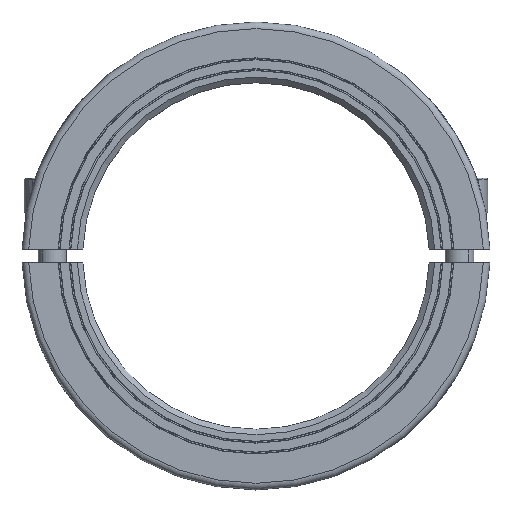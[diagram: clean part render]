
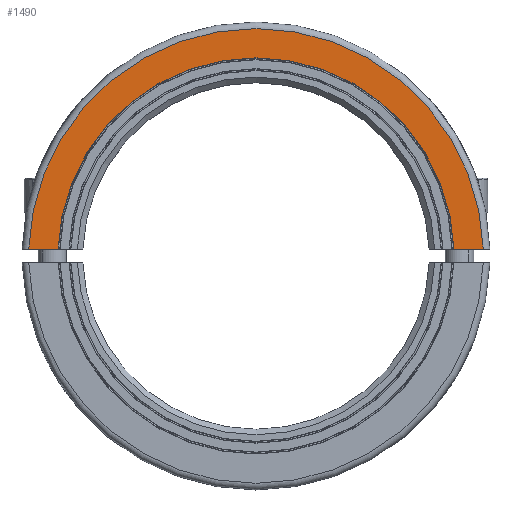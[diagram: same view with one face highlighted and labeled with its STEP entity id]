
A CAD part, top view. The second image highlights one B-rep face of the part: STEP entity #1490.
In plain terms, the highlighted planar face has unit normal (0, 0, 1).
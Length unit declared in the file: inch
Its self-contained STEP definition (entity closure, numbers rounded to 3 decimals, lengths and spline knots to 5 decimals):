
#128=CARTESIAN_POINT('',(2.06519,0.0625,0.74803));
#272=DIRECTION('',(-1.,0.,0.));
#273=VECTOR('',#272,0.26628);
#274=CARTESIAN_POINT('',(-1.79891,0.06252,
0.74803));
#275=LINE('',#274,#273);
#365=CARTESIAN_POINT('',(0.,0.,0.74803));
#366=DIRECTION('',(0.,0.,1.));
#367=DIRECTION('',(1.,0.03,0.));
#368=AXIS2_PLACEMENT_3D('',#365,#366,#367);
#370=DIRECTION('',(1.,0.,0.));
#371=VECTOR('',#370,0.26628);
#372=CARTESIAN_POINT('',(1.79891,0.06252,0.74803));
#373=LINE('',#372,#371);
#379=CARTESIAN_POINT('',(0.,0.,0.74803));
#380=DIRECTION('',(0.,0.,-1.));
#381=DIRECTION('',(-0.999,0.035,0.));
#382=AXIS2_PLACEMENT_3D('',#379,#380,#381);
#384=CARTESIAN_POINT('',(1.79891,0.06252,0.74803));
#868=VERTEX_POINT('',#128);
#871=VERTEX_POINT('',#384);
#918=CARTESIAN_POINT('',(-1.79891,0.06252,
0.74803));
#919=CARTESIAN_POINT('',(-2.06519,0.0625,
0.74803));
#920=VERTEX_POINT('',#918);
#921=VERTEX_POINT('',#919);
#1478=CARTESIAN_POINT('',(0.,0.,0.74803));
#1479=DIRECTION('',(0.,0.,1.));
#1480=DIRECTION('',(0.707,-0.707,0.));
#1481=AXIS2_PLACEMENT_3D('',#1478,#1479,#1480);
#1482=PLANE('',#1481);
#1484=ORIENTED_EDGE('',*,*,#1483,.F.);
#1485=ORIENTED_EDGE('',*,*,#1444,.T.);
#1486=ORIENTED_EDGE('',*,*,#1122,.F.);
#1487=ORIENTED_EDGE('',*,*,#1145,.F.);
#1488=EDGE_LOOP('',(#1484,#1485,#1486,#1487));
#1489=FACE_OUTER_BOUND('',#1488,.F.);
#369=CIRCLE('',#368,2.06614);
#383=CIRCLE('',#382,1.8);
#1122=EDGE_CURVE('',#868,#921,#369,.T.);
#1145=EDGE_CURVE('',#871,#868,#373,.T.);
#1444=EDGE_CURVE('',#920,#921,#275,.T.);
#1483=EDGE_CURVE('',#920,#871,#383,.T.);
#1490=ADVANCED_FACE('',(#1489),#1482,.T.);
